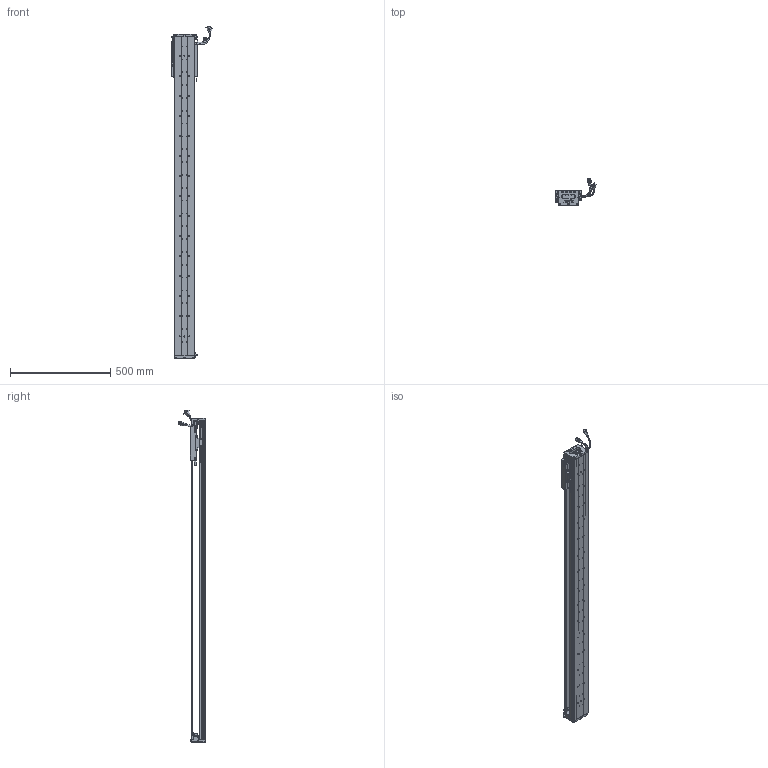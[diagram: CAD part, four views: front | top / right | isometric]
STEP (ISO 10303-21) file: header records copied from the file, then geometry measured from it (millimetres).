
FILE_DESCRIPTION (( 'STEP AP203' ), '1' );
FILE_NAME ('Z2-RY100D-1-L500-B-K.SLDASM_1350.step', '2021-05-17T02:36:17', ( '盈信电脑' ), ( '东莞市道滘镇水果街19号' ), 'SwSTEP 2.0', 'SolidWorks 2016', '' );
FILE_SCHEMA (( 'CONFIG_CONTROL_DESIGN' ));
Length unit declared in the file: millimetre
Products named in the file (36): SHIELDPLATE; HOLDER0; PBU_SHEET; LABEL; Z-100詩湍傷裔啣; 覜茼ん672; LABEL-Part-1; Z2-RY100D-500-倰第菁釱_1350; HARNESS-Part-1; HARNESS-Part-2; SCALE; 140蚥薯蝶輸; SCREW-M1.6-2; Z2-RY100D-1-L500-B-K.SLDASM_1350; Z-RY100D覜茼んえ; SCREW-M1.6; PSLH080_PSLF2; 100-Z-臏賑輸盄裔(21遴); 080黍杅芛假蚾釱21遴; SCALE-Part-1; COVER-Part-1; SCREW-M1.6-3; Z-RY100D詩湍狟揤裔; Z2-RY100铝滑块（21款）; HARNESS; SCREW-M1.7-1; 140雄赽晤鎢ん堤盄; COVER; SEAL; Z2-RY100-L500詩湍90mm遵_1350; SCALE-Part-2; Z-RY100D詩湍奻揤裔; SCREW-M1.7; SCREW-M1.6-1; SEAL-Part-1; 榋妏寠巭燃_暯_M2_2
Assembly tree (43 placements, depth 4):
  Z2-RY100D-1-L500-B-K.SLDASM_1350
    Z2-RY100D-500-倰第菁釱_1350
    Z2-RY100铝滑块（21款）
    PSLH080_PSLF2
      SCALE
        SCALE-Part-1
        SCALE-Part-2
      HARNESS
        HARNESS-Part-1
        HARNESS-Part-2
      LABEL
        LABEL-Part-1
      COVER
        COVER-Part-1
      SEAL
        SEAL-Part-1
      榋妏寠巭燃_暯_M2_2
      SHIELDPLATE
      SCREW-M1.7
      SCREW-M1.7-1
      PBU_SHEET
      SCREW-M1.6
      SCREW-M1.6-1
      SCREW-M1.6-2
      SCREW-M1.6-3
      HOLDER0
    080黍杅芛假蚾釱21遴
    Z-100詩湍傷裔啣  x2
    140蚥薯蝶輸  x2
    覜茼ん672  x3
    Z-RY100D覜茼んえ  x3
    100-Z-臏賑輸盄裔(21遴)
    140雄赽晤鎢ん堤盄
    Z2-RY100-L500詩湍90mm遵_1350
    Z-RY100D詩湍狟揤裔  x2
    Z-RY100D詩湍奻揤裔  x2
Bounding box: 205.83 x 136.11 x 1655.43 mm (x, y, z)
Volume: 3170645.2 mm3; surface area: 1243023.6 mm2
Topology: 38 solids, 38 shells, 2696 faces, 7185 edges, 4564 vertices
Faces by surface type: cylinder 1218, plane 1138, cone 218, torus 69, bspline 53
Entity records: 74981 total; most frequent: CARTESIAN_POINT 15800, DIRECTION 11929, ORIENTED_EDGE 11266, EDGE_CURVE 5633, AXIS2_PLACEMENT_3D 4417, VERTEX_POINT 3632, LINE 3095, VECTOR 3095
